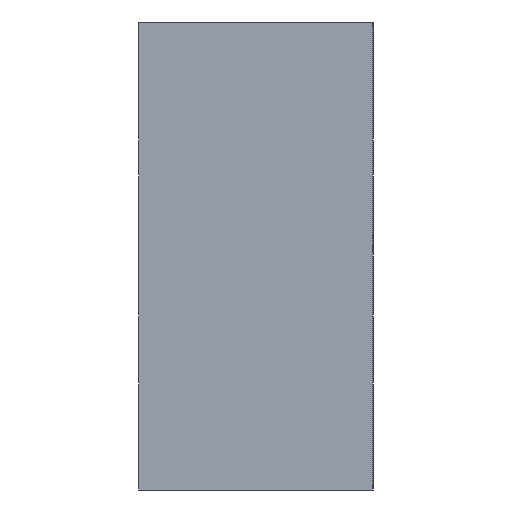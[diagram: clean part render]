
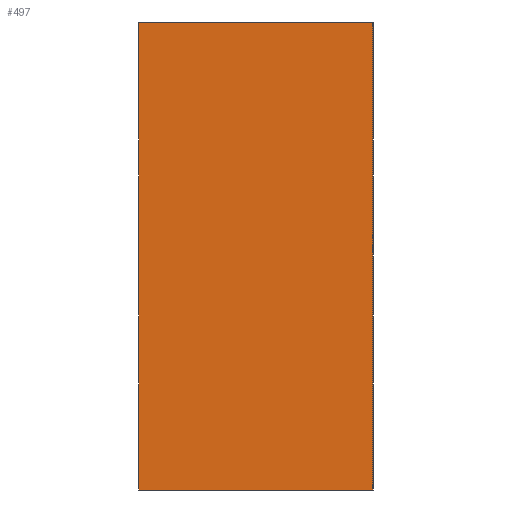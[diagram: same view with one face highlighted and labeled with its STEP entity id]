
A CAD part, left-side view. The second image highlights one B-rep face of the part: STEP entity #497.
In plain terms, the highlighted planar face has unit normal (-1, 0, 0).
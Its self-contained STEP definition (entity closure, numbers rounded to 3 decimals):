
#238=ORIENTED_EDGE('',*,*,#318,.T.);
#239=ORIENTED_EDGE('',*,*,#319,.F.);
#240=ORIENTED_EDGE('',*,*,#320,.F.);
#241=ORIENTED_EDGE('',*,*,#314,.T.);
#274=VECTOR('',#380,1.);
#278=VECTOR('',#386,1.);
#279=VECTOR('',#387,1.);
#280=VECTOR('',#388,1.);
#286=LINE('',#429,#274);
#290=LINE('',#437,#278);
#291=LINE('',#439,#279);
#292=LINE('',#440,#280);
#298=VERTEX_POINT('',#427);
#299=VERTEX_POINT('',#428);
#302=VERTEX_POINT('',#436);
#303=VERTEX_POINT('',#438);
#314=EDGE_CURVE('',#298,#299,#286,.T.);
#318=EDGE_CURVE('',#299,#302,#290,.T.);
#319=EDGE_CURVE('',#303,#302,#291,.T.);
#320=EDGE_CURVE('',#298,#303,#292,.T.);
#335=EDGE_LOOP('',(#238,#239,#240,#241));
#357=FACE_BOUND('',#335,.T.);
#380=DIRECTION('',(0.,-6.,0.));
#384=DIRECTION('',(-1.,0.,0.));
#385=DIRECTION('',(0.,1.,0.));
#386=DIRECTION('',(0.,0.,12.));
#387=DIRECTION('',(0.,-6.,0.));
#388=DIRECTION('',(0.,0.,12.));
#427=CARTESIAN_POINT('',(0.,6.,0.));
#428=CARTESIAN_POINT('',(0.,0.,0.));
#429=CARTESIAN_POINT('',(0.,6.,0.));
#435=CARTESIAN_POINT('',(0.,0.,12.));
#436=CARTESIAN_POINT('',(0.,0.,12.));
#437=CARTESIAN_POINT('',(0.,0.,0.));
#438=CARTESIAN_POINT('',(0.,6.,12.));
#439=CARTESIAN_POINT('',(0.,6.,12.));
#440=CARTESIAN_POINT('',(0.,6.,0.));
#473=AXIS2_PLACEMENT_3D('',#435,#384,#385);
#491=PLANE('',#473);
#497=ADVANCED_FACE('',(#357),#491,.T.);
